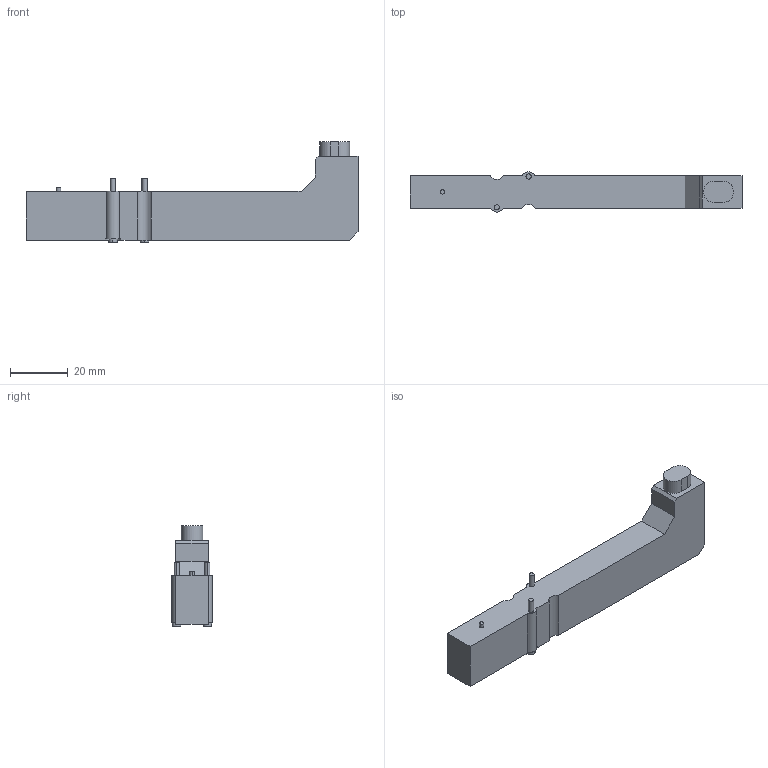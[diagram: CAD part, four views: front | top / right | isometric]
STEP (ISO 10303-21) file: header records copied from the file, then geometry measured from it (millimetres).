
FILE_DESCRIPTION((''),'2;1');
FILE_NAME('1825700104','2015-04-02T',('mla1hc'),(''),'PRO/ENGINEER BY PARAMETRIC TECHNOLOGY CORPORATION, 2011490','PRO/ENGINEER BY PARAMETRIC TECHNOLOGY CORPORATION, 2011490','');
FILE_SCHEMA(('AUTOMOTIVE_DESIGN_CC2 { 1 2 10303 214 -1 1 5 2 }'));
Length unit declared in the file: millimetre
Products named in the file (1): 1825700104
Bounding box: 115.35 x 13.98 x 34.85 mm (x, y, z)
Volume: 24635.7 mm3; surface area: 7808.7 mm2
Topology: 1 solids, 1 shells, 69 faces, 177 edges, 118 vertices
Faces by surface type: plane 51, cylinder 18
Entity records: 2115 total; most frequent: CARTESIAN_POINT 364, ORIENTED_EDGE 354, DIRECTION 351, EDGE_CURVE 177, VECTOR 141, LINE 141, VERTEX_POINT 118, AXIS2_PLACEMENT_3D 105
